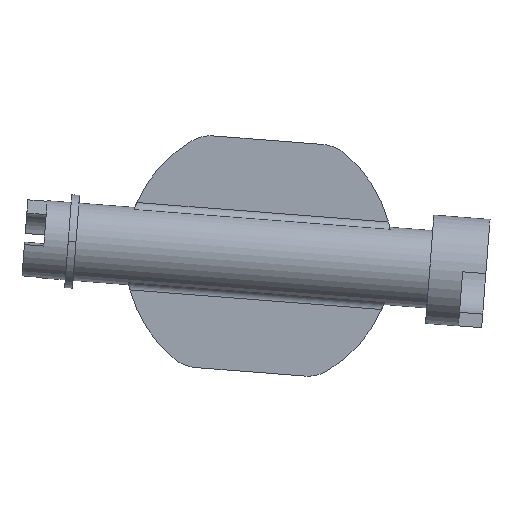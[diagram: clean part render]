
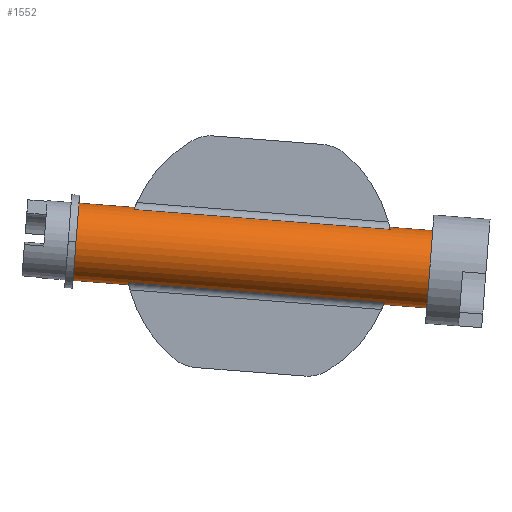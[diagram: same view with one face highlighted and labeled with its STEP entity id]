
A CAD part, front view. The second image highlights one B-rep face of the part: STEP entity #1552.
In plain terms, the highlighted cylindrical face has radius 5 mm (diameter 10 mm), a partial arc.
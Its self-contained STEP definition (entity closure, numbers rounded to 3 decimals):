
#61=CARTESIAN_POINT('',(587.01,0.,137.184));
#62=CARTESIAN_POINT('',(587.01,-0.188,137.184));
#63=CARTESIAN_POINT('',(587.005,-0.563,137.205));
#64=CARTESIAN_POINT('',(586.984,-1.122,137.303));
#65=CARTESIAN_POINT('',(586.961,-1.486,137.41));
#66=CARTESIAN_POINT('',(586.948,-1.667,137.475));
#87=CARTESIAN_POINT('',(587.01,0.,137.184));
#110=CARTESIAN_POINT('',(587.677,-1.667,146.875));
#111=CARTESIAN_POINT('',(587.7,-1.486,146.937));
#112=CARTESIAN_POINT('',(587.739,-1.122,147.04));
#113=CARTESIAN_POINT('',(587.775,-0.563,147.133));
#114=CARTESIAN_POINT('',(587.783,-0.188,147.154));
#115=CARTESIAN_POINT('',(587.783,0.,
147.154));
#130=CARTESIAN_POINT('',(580.188,0.,142.728));
#131=DIRECTION('',(0.997,0.,-0.077));
#132=DIRECTION('',(0.077,0.,0.997));
#133=AXIS2_PLACEMENT_3D('',#130,#131,#132);
#135=DIRECTION('',(0.997,0.,-0.077));
#136=VECTOR('',#135,7.23);
#137=CARTESIAN_POINT('',(580.574,0.,147.713));
#138=LINE('',#137,#136);
#139=DIRECTION('',(-0.997,0.,0.077));
#140=VECTOR('',#139,33.124);
#141=CARTESIAN_POINT('',(620.702,-1.667,144.314));
#142=LINE('',#141,#140);
#143=DIRECTION('',(0.997,0.,-0.077));
#144=VECTOR('',#143,5.58);
#145=CARTESIAN_POINT('',(620.64,0.,144.606));
#146=LINE('',#145,#144);
#147=CARTESIAN_POINT('',(625.817,0.,139.19));
#148=DIRECTION('',(0.997,0.,-0.077));
#149=DIRECTION('',(0.077,0.,0.997));
#150=AXIS2_PLACEMENT_3D('',#147,#148,#149);
#152=DIRECTION('',(0.997,0.,-0.077));
#153=VECTOR('',#152,33.124);
#154=CARTESIAN_POINT('',(586.948,-1.667,137.475));
#155=LINE('',#154,#153);
#202=DIRECTION('',(0.997,0.,-0.077));
#203=VECTOR('',#202,7.23);
#204=CARTESIAN_POINT('',(579.801,0.,137.743));
#205=LINE('',#204,#203);
#210=DIRECTION('',(0.997,0.,-0.077));
#211=VECTOR('',#210,5.58);
#212=CARTESIAN_POINT('',(619.867,0.,134.636));
#213=LINE('',#212,#211);
#708=CARTESIAN_POINT('',(619.973,-1.667,134.915));
#709=CARTESIAN_POINT('',(619.95,-1.486,134.852));
#710=CARTESIAN_POINT('',(619.911,-1.122,134.749));
#711=CARTESIAN_POINT('',(619.875,-0.563,134.657));
#712=CARTESIAN_POINT('',(619.867,-0.188,134.636));
#713=CARTESIAN_POINT('',(619.867,0.,134.636));
#743=CARTESIAN_POINT('',(620.64,0.,144.606));
#744=CARTESIAN_POINT('',(620.64,-0.188,144.606));
#745=CARTESIAN_POINT('',(620.645,-0.563,144.584));
#746=CARTESIAN_POINT('',(620.666,-1.122,144.487));
#747=CARTESIAN_POINT('',(620.689,-1.486,144.379));
#748=CARTESIAN_POINT('',(620.702,-1.667,144.314));
#1140=CARTESIAN_POINT('',(586.948,-1.667,137.475));
#1141=CARTESIAN_POINT('',(619.973,-1.667,134.915));
#1142=VERTEX_POINT('',#1140);
#1143=VERTEX_POINT('',#1141);
#1156=CARTESIAN_POINT('',(620.702,-1.667,144.314));
#1157=CARTESIAN_POINT('',(587.677,-1.667,146.875));
#1158=VERTEX_POINT('',#1156);
#1159=VERTEX_POINT('',#1157);
#1176=CARTESIAN_POINT('',(625.431,0.,134.205));
#1177=CARTESIAN_POINT('',(626.204,0.,144.175));
#1178=VERTEX_POINT('',#1176);
#1179=VERTEX_POINT('',#1177);
#1180=CARTESIAN_POINT('',(619.867,0.,
134.636));
#1181=VERTEX_POINT('',#1180);
#1182=CARTESIAN_POINT('',(620.64,0.,
144.606));
#1183=VERTEX_POINT('',#1182);
#1228=CARTESIAN_POINT('',(579.801,0.,137.743));
#1229=CARTESIAN_POINT('',(580.574,0.,147.713));
#1230=VERTEX_POINT('',#1228);
#1231=VERTEX_POINT('',#1229);
#1288=VERTEX_POINT('',#87);
#1289=VERTEX_POINT('',#115);
#1524=CARTESIAN_POINT('',(576.1,0.,143.045));
#1525=DIRECTION('',(0.997,0.,-0.077));
#1526=DIRECTION('',(-0.077,0.,-0.997));
#1527=AXIS2_PLACEMENT_3D('',#1524,#1525,#1526);
#1528=CYLINDRICAL_SURFACE('',#1527,5.);
#1530=ORIENTED_EDGE('',*,*,#1529,.F.);
#1532=ORIENTED_EDGE('',*,*,#1531,.T.);
#1533=ORIENTED_EDGE('',*,*,#1495,.F.);
#1535=ORIENTED_EDGE('',*,*,#1534,.F.);
#1537=ORIENTED_EDGE('',*,*,#1536,.F.);
#1539=ORIENTED_EDGE('',*,*,#1538,.T.);
#1541=ORIENTED_EDGE('',*,*,#1540,.T.);
#1543=ORIENTED_EDGE('',*,*,#1542,.F.);
#1545=ORIENTED_EDGE('',*,*,#1544,.F.);
#1546=ORIENTED_EDGE('',*,*,#1452,.F.);
#1547=ORIENTED_EDGE('',*,*,#1464,.F.);
#1549=ORIENTED_EDGE('',*,*,#1548,.F.);
#1550=EDGE_LOOP('',(#1530,#1532,#1533,#1535,#1537,#1539,#1541,#1543,#1545,#1546,
#1547,#1549));
#1551=FACE_OUTER_BOUND('',#1550,.F.);
#1552=ADVANCED_FACE('',(#1551),#1528,.T.);
#67=B_SPLINE_CURVE_WITH_KNOTS('',3,(#61,#62,#63,#64,#65,#66),.UNSPECIFIED.,.F.,
.F.,(4,1,1,4),(0.,0.333,0.667,1.),.UNSPECIFIED.);
#116=B_SPLINE_CURVE_WITH_KNOTS('',3,(#110,#111,#112,#113,#114,#115),
.UNSPECIFIED.,.F.,.F.,(4,1,1,4),(0.,0.333,0.667,1.),
.UNSPECIFIED.);
#134=CIRCLE('',#133,5.);
#151=CIRCLE('',#150,5.);
#714=B_SPLINE_CURVE_WITH_KNOTS('',3,(#708,#709,#710,#711,#712,#713),
.UNSPECIFIED.,.F.,.F.,(4,1,1,4),(0.,0.333,0.667,1.),
.UNSPECIFIED.);
#749=B_SPLINE_CURVE_WITH_KNOTS('',3,(#743,#744,#745,#746,#747,#748),
.UNSPECIFIED.,.F.,.F.,(4,1,1,4),(0.,0.333,0.667,1.),
.UNSPECIFIED.);
#1452=EDGE_CURVE('',#1142,#1143,#155,.T.);
#1464=EDGE_CURVE('',#1288,#1142,#67,.T.);
#1495=EDGE_CURVE('',#1159,#1289,#116,.T.);
#1529=EDGE_CURVE('',#1231,#1230,#134,.T.);
#1531=EDGE_CURVE('',#1231,#1289,#138,.T.);
#1534=EDGE_CURVE('',#1158,#1159,#142,.T.);
#1536=EDGE_CURVE('',#1183,#1158,#749,.T.);
#1538=EDGE_CURVE('',#1183,#1179,#146,.T.);
#1540=EDGE_CURVE('',#1179,#1178,#151,.T.);
#1542=EDGE_CURVE('',#1181,#1178,#213,.T.);
#1544=EDGE_CURVE('',#1143,#1181,#714,.T.);
#1548=EDGE_CURVE('',#1230,#1288,#205,.T.);
